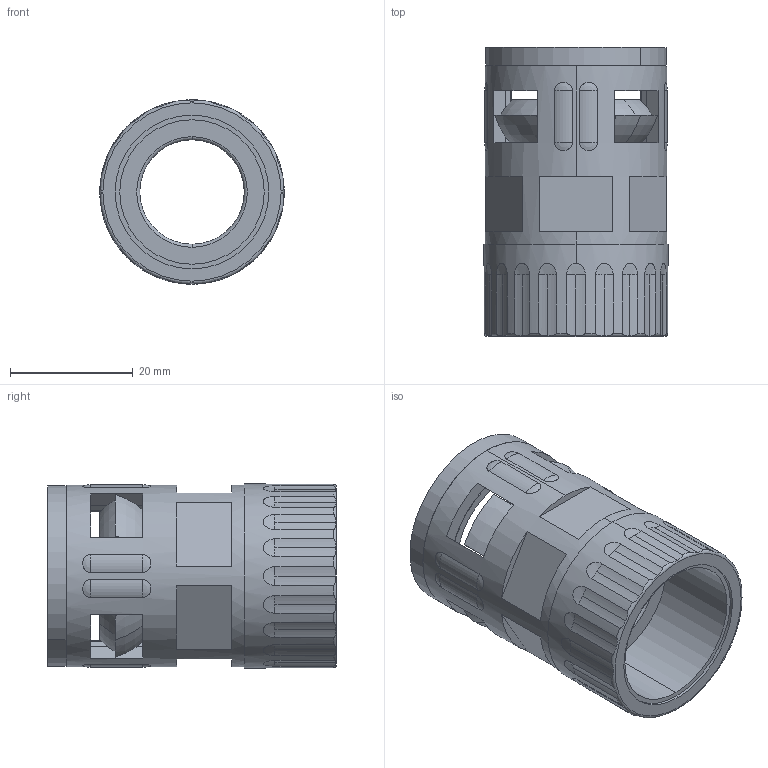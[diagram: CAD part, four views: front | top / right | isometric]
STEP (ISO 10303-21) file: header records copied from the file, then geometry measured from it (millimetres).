
FILE_DESCRIPTION (( 'STEP AP203' ), '1' );
FILE_NAME ('WQG2-M25-AD21.2.STEP', '2020-03-09T06:54:57', ( '' ), ( '' ), 'SwSTEP 2.0', 'SolidWorks 2016', '' );
FILE_SCHEMA (( 'CONFIG_CONTROL_DESIGN' ));
Length unit declared in the file: millimetre
Products named in the file (4): NSK-AD21.2; WQG2-M25-AD21.2-01; WQG2-M25-AD21.2; GFD-AD21.2
Assembly tree (3 placements, depth 2):
  WQG2-M25-AD21.2
    WQG2-M25-AD21.2-01
    GFD-AD21.2
    NSK-AD21.2
Bounding box: 30 x 47 x 30 mm (x, y, z)
Volume: 13128.8 mm3; surface area: 16096.4 mm2
Topology: 6 solids, 7 shells, 333 faces, 868 edges, 524 vertices
Faces by surface type: plane 100, cylinder 80, cone 77, torus 40, sphere 36
Entity records: 11472 total; most frequent: CARTESIAN_POINT 3085, DIRECTION 1754, ORIENTED_EDGE 1632, EDGE_CURVE 816, AXIS2_PLACEMENT_3D 709, VERTEX_POINT 508, CIRCLE 370, EDGE_LOOP 368
